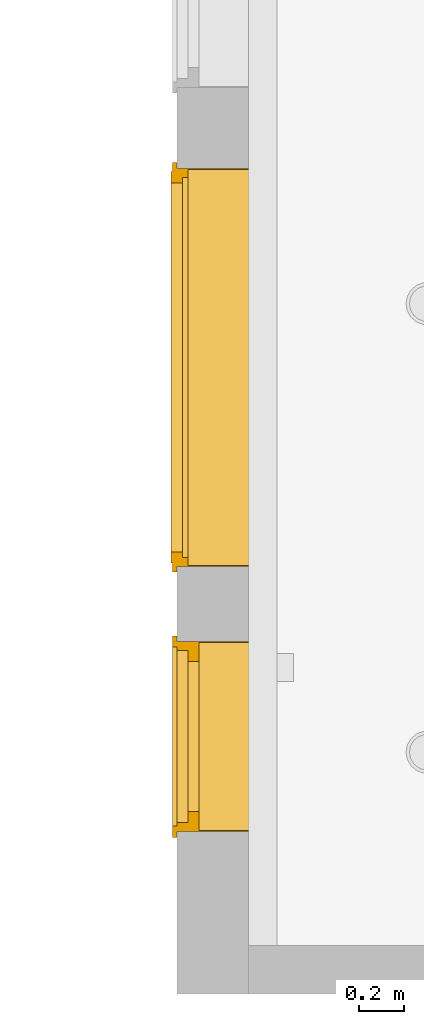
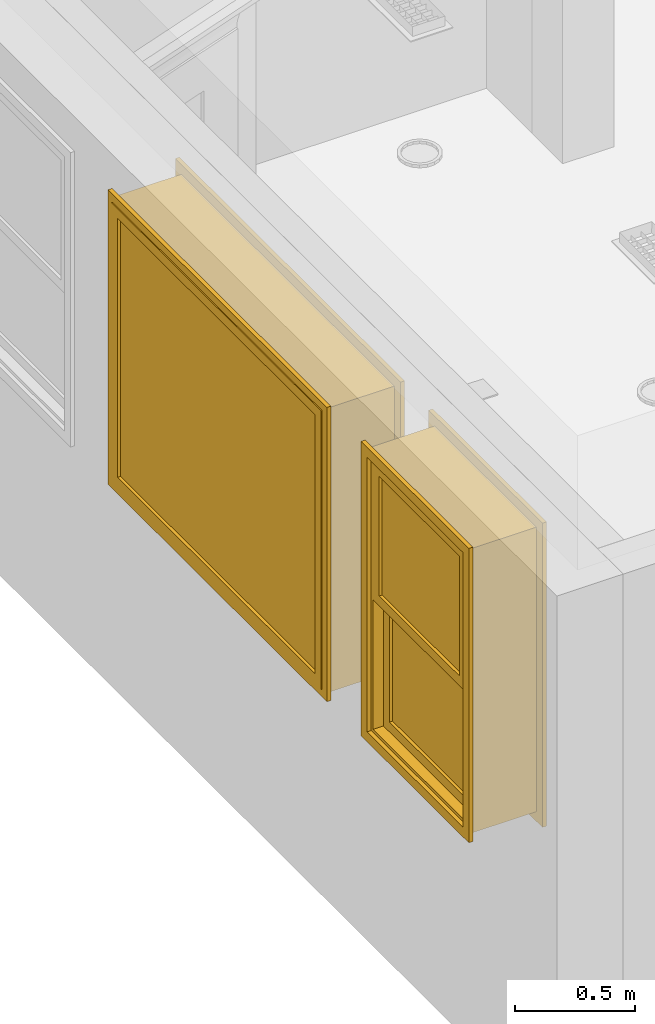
# One storey, part 10 of 24: 2 windows.
"""IFC2X3 building model written with IfcOpenShell, lengths in inches."""

from ifc_helpers import new_model, entity, si_unit, converted_unit, derived_unit, money_unit, direction, frame, origin_with_axes, place, context, subcontext, project, spatial, open_shell, faceted_brep, surface_model, type_object, element, save


model = new_model("IFC2X3")

# Units and contexts
model_context = context("Model", 3, precision=0.000393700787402, world=origin_with_axes(), true_north=direction((0.0, 1.0)))
body_context = subcontext(model_context, "Body", "Model", "MODEL_VIEW")
ifc_project = project(units=[converted_unit("LENGTHUNIT", "INCH", entity("IfcPositiveLengthMeasure", 0.0254), si_unit("LENGTHUNIT", "METRE"), dimensions=[1, 0, 0, 0, 0, 0, 0]), converted_unit("AREAUNIT", "SQUARE_FOOT", entity("IfcPositiveLengthMeasure", 0.09290304), si_unit("AREAUNIT", "SQUARE_METRE"), dimensions=[2, 0, 0, 0, 0, 0, 0]), si_unit("PLANEANGLEUNIT", "RADIAN"), si_unit("SOLIDANGLEUNIT", "STERADIAN"), money_unit("USD"), converted_unit("TIMEUNIT", "Year", entity("IfcTimeMeasure", 31556926.0), si_unit("TIMEUNIT", "SECOND"), dimensions=[0, 0, 1, 0, 0, 0, 0]), si_unit("MASSUNIT", "GRAM", prefix="KILO"), si_unit("THERMODYNAMICTEMPERATUREUNIT", "DEGREE_CELSIUS"), si_unit("LUMINOUSINTENSITYUNIT", "LUMEN"), si_unit("ENERGYUNIT", "JOULE", prefix="MEGA"), derived_unit("THERMALCONDUCTANCEUNIT", [(si_unit("POWERUNIT", "WATT"), 1), (si_unit("LENGTHUNIT", "METRE"), -1), (si_unit("THERMODYNAMICTEMPERATUREUNIT", "KELVIN"), -1)]), derived_unit("SPECIFICHEATCAPACITYUNIT", [(si_unit("ENERGYUNIT", "JOULE"), 1), (si_unit("MASSUNIT", "GRAM", prefix="KILO"), -1), (si_unit("THERMODYNAMICTEMPERATUREUNIT", "KELVIN"), -1)]), derived_unit("MASSDENSITYUNIT", [(si_unit("MASSUNIT", "GRAM", prefix="KILO"), 1), (si_unit("VOLUMEUNIT", "CUBIC_METRE"), -1)])], contexts=[model_context])

# Site, building, storey
site_placement = place(None, origin_with_axes())
site = spatial("IfcSite", under=ifc_project, at=site_placement, Name="Site", CompositionType="ELEMENT")
building_placement = place(site_placement, origin_with_axes())
building = spatial("IfcBuilding", under=site, at=building_placement, Name="Building", CompositionType="ELEMENT")
storey_placement = place(building_placement, origin_with_axes())
storey = spatial("IfcBuildingStorey", under=building, at=storey_placement, Name="First Floor", CompositionType="ELEMENT", Elevation=0.0)

# Windows
window_style_1 = type_object("IfcWindowStyle", Name="Double-Hung Window 25", ConstructionType="NOTDEFINED", OperationType="DOUBLE_PANEL_HORIZONTAL", ParameterTakesPrecedence=False, Sizeable=False)
window_1_placement = place(storey_placement, frame((290.431776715, 200.696750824, 36.0236220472), z_axis=(0.0, 0.0, 1.0), x_axis=(-9.94012117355e-06, -0.999999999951, 0.0)))
element("IfcWindow", 1, at=window_1_placement, inside=storey, type_object=window_style_1, Name="W-02", OverallHeight=57.0866, OverallWidth=33.4646, context=body_context, shape_type="SurfaceModel", body=[
    faceted_brep([(0.0, -8.66141732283, 0.0), (0.0, 0.0, 0.0), (33.4645669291, 0.0, 0.0), (33.4645669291, -8.66141732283, 0.0), (0.0, -8.66141732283, 57.0866141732), (0.0, 0.0, 57.0866141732), (33.4645669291, 0.0, 57.0866141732), (0.196850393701, 0.0, 0.196850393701), (33.2677165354, 0.0, 0.196850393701), (33.2677165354, 0.0, 56.8897637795), (0.196850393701, 0.0, 56.8897637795), (33.4645669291, -8.66141732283, 57.0866141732), (0.196850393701, -8.66141732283, 0.196850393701), (0.196850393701, -8.66141732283, 56.8897637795), (33.2677165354, -8.66141732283, 56.8897637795), (33.2677165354, -8.66141732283, 0.196850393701)], [[[0, 1, 2, 3]], [[4, 5, 1, 0]], [[1, 5, 6, 2], [7, 8, 9, 10]], [[3, 2, 6, 11]], [[0, 3, 11, 4], [12, 13, 14, 15]], [[11, 6, 5, 4]], [[15, 8, 7, 12]], [[14, 9, 8, 15]], [[13, 10, 9, 14]], [[12, 7, 10, 13]]]),
    faceted_brep([(-1.96850393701, 0.787401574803, -1.96850393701), (0.0, 0.787401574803, 0.0), (0.0, 0.0, 0.0), (-1.96850393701, 0.0, -1.96850393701), (-1.96850393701, 0.787401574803, 59.0551181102), (0.0, 0.787401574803, 57.0866141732), (0.0, 0.0, 57.0866141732), (-1.96850393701, 0.0, 59.0551181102)], [[[0, 1, 2, 3]], [[0, 4, 5, 1]], [[1, 5, 6, 2]], [[3, 2, 6, 7]], [[4, 0, 3, 7]], [[5, 4, 7, 6]]]),
    faceted_brep([(35.4330708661, 0.787401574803, 59.0551181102), (33.4645669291, 0.787401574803, 57.0866141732), (33.4645669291, 0.0, 57.0866141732), (35.4330708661, 0.0, 59.0551181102), (35.4330708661, 0.787401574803, -1.96850393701), (33.4645669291, 0.787401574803, 0.0), (33.4645669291, 0.0, 0.0), (35.4330708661, 0.0, -1.96850393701)], [[[0, 1, 2, 3]], [[0, 4, 5, 1]], [[1, 5, 6, 2]], [[3, 2, 6, 7]], [[4, 0, 3, 7]], [[5, 4, 7, 6]]]),
    faceted_brep([(35.4330708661, 0.787401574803, -1.96850393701), (33.4645669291, 0.787401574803, 0.0), (33.4645669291, 0.0, 0.0), (35.4330708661, 0.0, -1.96850393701), (-1.96850393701, 0.787401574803, -1.96850393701), (0.0, 0.787401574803, 0.0), (0.0, 0.0, 0.0), (-1.96850393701, 0.0, -1.96850393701)], [[[0, 1, 2, 3]], [[0, 4, 5, 1]], [[1, 5, 6, 2]], [[3, 2, 6, 7]], [[4, 0, 3, 7]], [[5, 4, 7, 6]]]),
    faceted_brep([(-1.96850393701, 0.787401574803, 59.0551181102), (0.0, 0.787401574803, 57.0866141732), (0.0, 0.0, 57.0866141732), (-1.96850393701, 0.0, 59.0551181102), (35.4330708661, 0.787401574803, 59.0551181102), (33.4645669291, 0.787401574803, 57.0866141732), (33.4645669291, 0.0, 57.0866141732), (35.4330708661, 0.0, 59.0551181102)], [[[0, 1, 2, 3]], [[0, 4, 5, 1]], [[1, 5, 6, 2]], [[3, 2, 6, 7]], [[4, 0, 3, 7]], [[5, 4, 7, 6]]]),
    faceted_brep([(-0.984251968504, -13.3858267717, -0.984251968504), (-0.984251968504, -12.5984251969, -0.984251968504), (0.984251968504, -12.5984251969, 0.984251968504), (0.984251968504, -13.3858267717, 0.984251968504), (-0.984251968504, -13.3858267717, 58.0708661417), (-0.984251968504, -12.5984251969, 58.0708661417), (0.984251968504, -12.5984251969, 56.1023622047), (0.984251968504, -13.3858267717, 56.1023622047)], [[[0, 1, 2, 3]], [[4, 5, 1, 0]], [[1, 5, 6, 2]], [[3, 2, 6, 7]], [[0, 3, 7, 4]], [[7, 6, 5, 4]]]),
    faceted_brep([(34.4488188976, -13.3858267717, 58.0708661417), (34.4488188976, -12.5984251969, 58.0708661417), (32.4803149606, -12.5984251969, 56.1023622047), (32.4803149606, -13.3858267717, 56.1023622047), (34.4488188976, -13.3858267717, -0.984251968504), (34.4488188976, -12.5984251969, -0.984251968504), (32.4803149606, -12.5984251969, 0.984251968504), (32.4803149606, -13.3858267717, 0.984251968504)], [[[0, 1, 2, 3]], [[4, 5, 1, 0]], [[1, 5, 6, 2]], [[3, 2, 6, 7]], [[0, 3, 7, 4]], [[7, 6, 5, 4]]]),
    faceted_brep([(34.4488188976, -13.3858267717, -0.984251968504), (34.4488188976, -12.5984251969, -0.984251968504), (32.4803149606, -12.5984251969, 0.984251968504), (32.4803149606, -13.3858267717, 0.984251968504), (-0.984251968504, -13.3858267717, -0.984251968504), (-0.984251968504, -12.5984251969, -0.984251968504), (0.984251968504, -12.5984251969, 0.984251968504), (0.984251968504, -13.3858267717, 0.984251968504)], [[[0, 1, 2, 3]], [[4, 5, 1, 0]], [[1, 5, 6, 2]], [[3, 2, 6, 7]], [[0, 3, 7, 4]], [[7, 6, 5, 4]]]),
    faceted_brep([(-0.984251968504, -13.3858267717, 58.0708661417), (-0.984251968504, -12.5984251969, 58.0708661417), (0.984251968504, -12.5984251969, 56.1023622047), (0.984251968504, -13.3858267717, 56.1023622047), (34.4488188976, -13.3858267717, 58.0708661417), (34.4488188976, -12.5984251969, 58.0708661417), (32.4803149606, -12.5984251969, 56.1023622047), (32.4803149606, -13.3858267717, 56.1023622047)], [[[0, 1, 2, 3]], [[4, 5, 1, 0]], [[1, 5, 6, 2]], [[3, 2, 6, 7]], [[0, 3, 7, 4]], [[7, 6, 5, 4]]]),
    faceted_brep([(1.57480314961, -12.5984251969, 55.5118110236), (1.57480314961, -8.66141732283, 55.5118110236), (0.0, -8.66141732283, 55.5118110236), (0.0, -12.5984251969, 55.5118110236), (1.57480314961, -12.5984251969, 1.57480314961), (1.57480314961, -8.66141732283, 1.57480314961), (0.0, -8.66141732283, 1.57480314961), (0.0, -12.5984251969, 1.57480314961)], [[[0, 1, 2, 3]], [[4, 5, 1, 0]], [[1, 5, 6, 2]], [[3, 2, 6, 7]], [[0, 3, 7, 4]], [[7, 6, 5, 4]]]),
    faceted_brep([(31.8897637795, -12.5984251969, 1.57480314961), (31.8897637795, -8.66141732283, 1.57480314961), (33.4645669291, -8.66141732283, 1.57480314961), (33.4645669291, -12.5984251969, 1.57480314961), (31.8897637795, -12.5984251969, 55.5118110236), (31.8897637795, -8.66141732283, 55.5118110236), (33.4645669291, -8.66141732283, 55.5118110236), (33.4645669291, -12.5984251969, 55.5118110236)], [[[0, 1, 2, 3]], [[4, 5, 1, 0]], [[1, 5, 6, 2]], [[3, 2, 6, 7]], [[0, 3, 7, 4]], [[7, 6, 5, 4]]]),
    faceted_brep([(1.57480314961, -12.5984251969, 1.57480314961), (1.57480314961, -8.66141732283, 1.57480314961), (0.0, -8.66141732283, 1.57480314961), (0.0, -12.5984251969, 1.57480314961), (31.8897637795, -12.5984251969, 1.57480314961), (31.8897637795, -8.66141732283, 1.57480314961), (33.4645669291, -8.66141732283, 1.57480314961), (33.4645669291, -8.66141732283, 0.0), (0.0, -8.66141732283, 0.0), (0.0, -12.5984251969, 0.0), (33.4645669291, -12.5984251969, 0.0), (33.4645669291, -12.5984251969, 1.57480314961)], [[[0, 1, 2, 3]], [[4, 5, 1, 0]], [[1, 5, 6, 7, 8, 2]], [[3, 2, 8, 9]], [[0, 3, 9, 10, 11, 4]], [[11, 6, 5, 4]], [[10, 7, 6, 11]], [[9, 8, 7, 10]]]),
    faceted_brep([(31.8897637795, -12.5984251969, 55.5118110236), (31.8897637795, -8.66141732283, 55.5118110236), (33.4645669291, -8.66141732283, 55.5118110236), (33.4645669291, -12.5984251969, 55.5118110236), (1.57480314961, -12.5984251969, 55.5118110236), (1.57480314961, -8.66141732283, 55.5118110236), (0.0, -8.66141732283, 55.5118110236), (0.0, -8.66141732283, 57.0866141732), (33.4645669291, -8.66141732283, 57.0866141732), (33.4645669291, -12.5984251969, 57.0866141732), (0.0, -12.5984251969, 57.0866141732), (0.0, -12.5984251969, 55.5118110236)], [[[0, 1, 2, 3]], [[4, 5, 1, 0]], [[1, 5, 6, 7, 8, 2]], [[3, 2, 8, 9]], [[0, 3, 9, 10, 11, 4]], [[11, 6, 5, 4]], [[10, 7, 6, 11]], [[9, 8, 7, 10]]]),
    faceted_brep([(3.54330708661, -10.6299212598, 27.5590551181), (3.54330708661, -8.66141732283, 27.5590551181), (1.57480314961, -8.66141732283, 27.5590551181), (1.57480314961, -10.6299212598, 27.5590551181), (3.54330708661, -10.6299212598, 3.54330708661), (3.54330708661, -8.66141732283, 3.54330708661), (1.57480314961, -8.66141732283, 3.54330708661), (1.57480314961, -10.6299212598, 3.54330708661)], [[[0, 1, 2, 3]], [[4, 5, 1, 0]], [[1, 5, 6, 2]], [[3, 2, 6, 7]], [[0, 3, 7, 4]], [[7, 6, 5, 4]]]),
    faceted_brep([(29.9212598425, -10.6299212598, 3.54330708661), (29.9212598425, -8.66141732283, 3.54330708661), (31.8897637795, -8.66141732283, 3.54330708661), (31.8897637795, -10.6299212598, 3.54330708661), (29.9212598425, -10.6299212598, 27.5590551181), (29.9212598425, -8.66141732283, 27.5590551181), (31.8897637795, -8.66141732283, 27.5590551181), (31.8897637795, -10.6299212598, 27.5590551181)], [[[0, 1, 2, 3]], [[4, 5, 1, 0]], [[1, 5, 6, 2]], [[3, 2, 6, 7]], [[0, 3, 7, 4]], [[7, 6, 5, 4]]]),
    faceted_brep([(31.8897637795, -10.6299212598, 1.57480314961), (31.8897637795, -8.66141732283, 1.57480314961), (31.8897637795, -8.66141732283, 3.54330708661), (31.8897637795, -10.6299212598, 3.54330708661), (1.57480314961, -10.6299212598, 1.57480314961), (1.57480314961, -8.66141732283, 1.57480314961), (1.57480314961, -8.66141732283, 3.54330708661), (3.54330708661, -8.66141732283, 3.54330708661), (29.9212598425, -8.66141732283, 3.54330708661), (29.9212598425, -10.6299212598, 3.54330708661), (3.54330708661, -10.6299212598, 3.54330708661), (1.57480314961, -10.6299212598, 3.54330708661)], [[[0, 1, 2, 3]], [[4, 5, 1, 0]], [[1, 5, 6, 7, 8, 2]], [[3, 2, 8, 9]], [[0, 3, 9, 10, 11, 4]], [[11, 6, 5, 4]], [[10, 7, 6, 11]], [[9, 8, 7, 10]]]),
    faceted_brep([(1.57480314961, -10.6299212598, 29.5275590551), (1.57480314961, -8.66141732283, 29.5275590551), (1.57480314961, -8.66141732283, 27.5590551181), (1.57480314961, -10.6299212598, 27.5590551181), (31.8897637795, -10.6299212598, 29.5275590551), (31.8897637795, -8.66141732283, 29.5275590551), (31.8897637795, -8.66141732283, 27.5590551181), (29.9212598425, -8.66141732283, 27.5590551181), (3.54330708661, -8.66141732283, 27.5590551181), (3.54330708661, -10.6299212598, 27.5590551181), (29.9212598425, -10.6299212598, 27.5590551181), (31.8897637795, -10.6299212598, 27.5590551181)], [[[0, 1, 2, 3]], [[4, 5, 1, 0]], [[1, 5, 6, 7, 8, 2]], [[3, 2, 8, 9]], [[0, 3, 9, 10, 11, 4]], [[11, 6, 5, 4]], [[10, 7, 6, 11]], [[9, 8, 7, 10]]]),
    surface_model("IfcShellBasedSurfaceModel", [(3.54330708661, -10.0393700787, 3.54330708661), (29.9212598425, -10.0393700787, 3.54330708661), (29.9212598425, -10.0393700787, 27.5590551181), (3.54330708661, -10.0393700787, 27.5590551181)], [open_shell([[[0, 1, 2, 3]]])]),
    surface_model("IfcShellBasedSurfaceModel", [(3.54330708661, -9.25196850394, 3.54330708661), (3.54330708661, -9.25196850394, 27.5590551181), (29.9212598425, -9.25196850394, 27.5590551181), (29.9212598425, -9.25196850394, 3.54330708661)], [open_shell([[[0, 1, 2, 3]]])]),
    faceted_brep([(3.54330708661, -12.5984251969, 53.5433070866), (3.54330708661, -10.6299212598, 53.5433070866), (1.57480314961, -10.6299212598, 53.5433070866), (1.57480314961, -12.5984251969, 53.5433070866), (3.54330708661, -12.5984251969, 29.5275590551), (3.54330708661, -10.6299212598, 29.5275590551), (1.57480314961, -10.6299212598, 29.5275590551), (1.57480314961, -12.5984251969, 29.5275590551)], [[[0, 1, 2, 3]], [[4, 5, 1, 0]], [[1, 5, 6, 2]], [[3, 2, 6, 7]], [[0, 3, 7, 4]], [[7, 6, 5, 4]]]),
    faceted_brep([(29.9212598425, -12.5984251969, 29.5275590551), (29.9212598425, -10.6299212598, 29.5275590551), (31.8897637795, -10.6299212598, 29.5275590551), (31.8897637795, -12.5984251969, 29.5275590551), (29.9212598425, -12.5984251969, 53.5433070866), (29.9212598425, -10.6299212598, 53.5433070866), (31.8897637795, -10.6299212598, 53.5433070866), (31.8897637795, -12.5984251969, 53.5433070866)], [[[0, 1, 2, 3]], [[4, 5, 1, 0]], [[1, 5, 6, 2]], [[3, 2, 6, 7]], [[0, 3, 7, 4]], [[7, 6, 5, 4]]]),
    faceted_brep([(31.8897637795, -12.5984251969, 27.5590551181), (31.8897637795, -10.6299212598, 27.5590551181), (31.8897637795, -10.6299212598, 29.5275590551), (31.8897637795, -12.5984251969, 29.5275590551), (1.57480314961, -12.5984251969, 27.5590551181), (1.57480314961, -10.6299212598, 27.5590551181), (1.57480314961, -10.6299212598, 29.5275590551), (3.54330708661, -10.6299212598, 29.5275590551), (29.9212598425, -10.6299212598, 29.5275590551), (29.9212598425, -12.5984251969, 29.5275590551), (3.54330708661, -12.5984251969, 29.5275590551), (1.57480314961, -12.5984251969, 29.5275590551)], [[[0, 1, 2, 3]], [[4, 5, 1, 0]], [[1, 5, 6, 7, 8, 2]], [[3, 2, 8, 9]], [[0, 3, 9, 10, 11, 4]], [[11, 6, 5, 4]], [[10, 7, 6, 11]], [[9, 8, 7, 10]]]),
    faceted_brep([(1.57480314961, -12.5984251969, 55.5118110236), (1.57480314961, -10.6299212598, 55.5118110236), (1.57480314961, -10.6299212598, 53.5433070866), (1.57480314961, -12.5984251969, 53.5433070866), (31.8897637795, -12.5984251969, 55.5118110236), (31.8897637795, -10.6299212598, 55.5118110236), (31.8897637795, -10.6299212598, 53.5433070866), (29.9212598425, -10.6299212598, 53.5433070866), (3.54330708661, -10.6299212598, 53.5433070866), (3.54330708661, -12.5984251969, 53.5433070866), (29.9212598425, -12.5984251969, 53.5433070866), (31.8897637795, -12.5984251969, 53.5433070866)], [[[0, 1, 2, 3]], [[4, 5, 1, 0]], [[1, 5, 6, 7, 8, 2]], [[3, 2, 8, 9]], [[0, 3, 9, 10, 11, 4]], [[11, 6, 5, 4]], [[10, 7, 6, 11]], [[9, 8, 7, 10]]]),
    surface_model("IfcShellBasedSurfaceModel", [(3.54330708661, -12.0078740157, 29.5275590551), (29.9212598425, -12.0078740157, 29.5275590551), (29.9212598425, -12.0078740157, 53.5433070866), (3.54330708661, -12.0078740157, 53.5433070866)], [open_shell([[[0, 1, 2, 3]]])]),
    surface_model("IfcShellBasedSurfaceModel", [(3.54330708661, -11.2204724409, 29.5275590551), (3.54330708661, -11.2204724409, 53.5433070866), (29.9212598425, -11.2204724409, 53.5433070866), (29.9212598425, -11.2204724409, 29.5275590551)], [open_shell([[[0, 1, 2, 3]]])]),
])
window_style_2 = type_object("IfcWindowStyle", Name="Window 25", ConstructionType="NOTDEFINED", OperationType="SINGLE_PANEL", ParameterTakesPrecedence=False, Sizeable=False)
window_2_placement = place(storey_placement, frame((290.431907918, 213.896101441, 36.0236220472), z_axis=(0.0, 0.0, 1.0), x_axis=(9.94012117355e-06, 0.999999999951, 0.0)))
element("IfcWindow", 2, at=window_2_placement, inside=storey, type_object=window_style_2, Name="W-03", OverallHeight=57.0866, OverallWidth=70.0787, context=body_context, shape_type="SurfaceModel", body=[
    faceted_brep([(70.0787401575, 10.6299212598, 0.0), (70.0787401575, 0.0, 0.0), (0.0, 0.0, 0.0), (0.0, 10.6299212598, 0.0), (70.0787401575, 10.6299212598, 57.0866141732), (70.0787401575, 0.0, 57.0866141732), (0.0, 0.0, 57.0866141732), (69.8818897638, 0.0, 0.196850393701), (0.196850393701, 0.0, 0.196850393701), (0.196850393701, 0.0, 56.8897637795), (69.8818897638, 0.0, 56.8897637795), (0.0, 10.6299212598, 57.0866141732), (69.8818897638, 10.6299212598, 0.196850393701), (69.8818897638, 10.6299212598, 56.8897637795), (0.196850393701, 10.6299212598, 56.8897637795), (0.196850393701, 10.6299212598, 0.196850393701)], [[[0, 1, 2, 3]], [[4, 5, 1, 0]], [[1, 5, 6, 2], [7, 8, 9, 10]], [[3, 2, 6, 11]], [[0, 3, 11, 4], [12, 13, 14, 15]], [[11, 6, 5, 4]], [[15, 8, 7, 12]], [[14, 9, 8, 15]], [[13, 10, 9, 14]], [[12, 7, 10, 13]]]),
    faceted_brep([(72.0472440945, -0.787401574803, -1.96850393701), (70.0787401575, -0.787401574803, 0.0), (70.0787401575, 0.0, 0.0), (72.0472440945, 0.0, -1.96850393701), (72.0472440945, -0.787401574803, 59.0551181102), (70.0787401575, -0.787401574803, 57.0866141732), (70.0787401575, 0.0, 57.0866141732), (72.0472440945, 0.0, 59.0551181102)], [[[0, 1, 2, 3]], [[0, 4, 5, 1]], [[1, 5, 6, 2]], [[3, 2, 6, 7]], [[4, 0, 3, 7]], [[5, 4, 7, 6]]]),
    faceted_brep([(-1.96850393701, -0.787401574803, 59.0551181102), (0.0, -0.787401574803, 57.0866141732), (0.0, 0.0, 57.0866141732), (-1.96850393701, 0.0, 59.0551181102), (-1.96850393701, -0.787401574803, -1.96850393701), (0.0, -0.787401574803, 0.0), (0.0, 0.0, 0.0), (-1.96850393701, 0.0, -1.96850393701)], [[[0, 1, 2, 3]], [[0, 4, 5, 1]], [[1, 5, 6, 2]], [[3, 2, 6, 7]], [[4, 0, 3, 7]], [[5, 4, 7, 6]]]),
    faceted_brep([(-1.96850393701, -0.787401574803, -1.96850393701), (0.0, -0.787401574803, 0.0), (0.0, 0.0, 0.0), (-1.96850393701, 0.0, -1.96850393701), (72.0472440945, -0.787401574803, -1.96850393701), (70.0787401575, -0.787401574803, 0.0), (70.0787401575, 0.0, 0.0), (72.0472440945, 0.0, -1.96850393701)], [[[0, 1, 2, 3]], [[0, 4, 5, 1]], [[1, 5, 6, 2]], [[3, 2, 6, 7]], [[4, 0, 3, 7]], [[5, 4, 7, 6]]]),
    faceted_brep([(72.0472440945, -0.787401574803, 59.0551181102), (70.0787401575, -0.787401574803, 57.0866141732), (70.0787401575, 0.0, 57.0866141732), (72.0472440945, 0.0, 59.0551181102), (-1.96850393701, -0.787401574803, 59.0551181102), (0.0, -0.787401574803, 57.0866141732), (0.0, 0.0, 57.0866141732), (-1.96850393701, 0.0, 59.0551181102)], [[[0, 1, 2, 3]], [[0, 4, 5, 1]], [[1, 5, 6, 2]], [[3, 2, 6, 7]], [[4, 0, 3, 7]], [[5, 4, 7, 6]]]),
    faceted_brep([(71.062992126, 13.3858267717, -0.984251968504), (71.062992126, 12.5984251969, -0.984251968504), (69.094488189, 12.5984251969, 0.984251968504), (69.094488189, 13.3858267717, 0.984251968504), (71.062992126, 13.3858267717, 58.0708661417), (71.062992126, 12.5984251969, 58.0708661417), (69.094488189, 12.5984251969, 56.1023622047), (69.094488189, 13.3858267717, 56.1023622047)], [[[0, 1, 2, 3]], [[4, 5, 1, 0]], [[1, 5, 6, 2]], [[3, 2, 6, 7]], [[0, 3, 7, 4]], [[7, 6, 5, 4]]]),
    faceted_brep([(-0.984251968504, 13.3858267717, 58.0708661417), (-0.984251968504, 12.5984251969, 58.0708661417), (0.984251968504, 12.5984251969, 56.1023622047), (0.984251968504, 13.3858267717, 56.1023622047), (-0.984251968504, 13.3858267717, -0.984251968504), (-0.984251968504, 12.5984251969, -0.984251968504), (0.984251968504, 12.5984251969, 0.984251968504), (0.984251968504, 13.3858267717, 0.984251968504)], [[[0, 1, 2, 3]], [[4, 5, 1, 0]], [[1, 5, 6, 2]], [[3, 2, 6, 7]], [[0, 3, 7, 4]], [[7, 6, 5, 4]]]),
    faceted_brep([(-0.984251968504, 13.3858267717, -0.984251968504), (-0.984251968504, 12.5984251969, -0.984251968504), (0.984251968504, 12.5984251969, 0.984251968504), (0.984251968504, 13.3858267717, 0.984251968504), (71.062992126, 13.3858267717, -0.984251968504), (71.062992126, 12.5984251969, -0.984251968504), (69.094488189, 12.5984251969, 0.984251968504), (69.094488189, 13.3858267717, 0.984251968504)], [[[0, 1, 2, 3]], [[4, 5, 1, 0]], [[1, 5, 6, 2]], [[3, 2, 6, 7]], [[0, 3, 7, 4]], [[7, 6, 5, 4]]]),
    faceted_brep([(71.062992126, 13.3858267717, 58.0708661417), (71.062992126, 12.5984251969, 58.0708661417), (69.094488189, 12.5984251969, 56.1023622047), (69.094488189, 13.3858267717, 56.1023622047), (-0.984251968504, 13.3858267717, 58.0708661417), (-0.984251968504, 12.5984251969, 58.0708661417), (0.984251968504, 12.5984251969, 56.1023622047), (0.984251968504, 13.3858267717, 56.1023622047)], [[[0, 1, 2, 3]], [[4, 5, 1, 0]], [[1, 5, 6, 2]], [[3, 2, 6, 7]], [[0, 3, 7, 4]], [[7, 6, 5, 4]]]),
    faceted_brep([(69.4881889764, 12.5984251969, 55.5118110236), (69.4881889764, 11.6141732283, 55.5118110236), (68.5039370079, 11.6141732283, 55.5118110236), (68.5039370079, 10.6299212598, 55.5118110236), (70.0787401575, 10.6299212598, 55.5118110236), (70.0787401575, 12.5984251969, 55.5118110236), (69.4881889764, 12.5984251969, 1.57480314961), (69.4881889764, 11.6141732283, 1.57480314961), (68.5039370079, 11.6141732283, 1.57480314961), (68.5039370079, 10.6299212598, 1.57480314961), (70.0787401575, 10.6299212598, 1.57480314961), (70.0787401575, 12.5984251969, 1.57480314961)], [[[0, 1, 2, 3, 4, 5]], [[1, 0, 6, 7]], [[8, 2, 1, 7]], [[2, 8, 9, 3]], [[4, 3, 9, 10]], [[5, 4, 10, 11]], [[6, 0, 5, 11]], [[7, 6, 11, 10, 9, 8]]]),
    faceted_brep([(1.57480314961, 11.6141732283, 55.5118110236), (0.590551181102, 11.6141732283, 55.5118110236), (0.590551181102, 12.5984251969, 55.5118110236), (0.0, 12.5984251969, 55.5118110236), (0.0, 10.6299212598, 55.5118110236), (1.57480314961, 10.6299212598, 55.5118110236), (1.57480314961, 11.6141732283, 1.57480314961), (0.590551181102, 11.6141732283, 1.57480314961), (0.590551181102, 12.5984251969, 1.57480314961), (0.0, 12.5984251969, 1.57480314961), (0.0, 10.6299212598, 1.57480314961), (1.57480314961, 10.6299212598, 1.57480314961)], [[[0, 1, 2, 3, 4, 5]], [[1, 0, 6, 7]], [[8, 2, 1, 7]], [[2, 8, 9, 3]], [[9, 10, 4, 3]], [[10, 11, 5, 4]], [[6, 0, 5, 11]], [[7, 6, 11, 10, 9, 8]]]),
    faceted_brep([(1.57480314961, 11.6141732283, 1.57480314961), (0.590551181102, 11.6141732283, 1.57480314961), (0.590551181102, 12.5984251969, 1.57480314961), (0.0, 12.5984251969, 1.57480314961), (0.0, 10.6299212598, 1.57480314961), (1.57480314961, 10.6299212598, 1.57480314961), (68.5039370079, 11.6141732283, 1.57480314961), (69.4881889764, 11.6141732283, 1.57480314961), (69.4881889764, 11.6141732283, 0.590551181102), (0.590551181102, 11.6141732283, 0.590551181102), (0.590551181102, 12.5984251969, 0.590551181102), (69.4881889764, 12.5984251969, 0.590551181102), (69.4881889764, 12.5984251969, 1.57480314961), (70.0787401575, 12.5984251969, 1.57480314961), (70.0787401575, 12.5984251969, 0.0), (0.0, 12.5984251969, 0.0), (0.0, 10.6299212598, 0.0), (70.0787401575, 10.6299212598, 1.57480314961), (68.5039370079, 10.6299212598, 1.57480314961), (70.0787401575, 10.6299212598, 0.0)], [[[0, 1, 2, 3, 4, 5]], [[1, 0, 6, 7, 8, 9]], [[10, 2, 1, 9]], [[11, 12, 13, 14, 15, 3, 2, 10]], [[15, 16, 4, 3]], [[17, 18, 5, 4, 16, 19]], [[6, 0, 5, 18]], [[7, 6, 18, 17, 13, 12]], [[7, 12, 11, 8]], [[11, 10, 9, 8]], [[13, 17, 19, 14]], [[14, 19, 16, 15]]]),
    faceted_brep([(69.4881889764, 12.5984251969, 55.5118110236), (69.4881889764, 12.5984251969, 56.4960629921), (0.590551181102, 12.5984251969, 56.4960629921), (0.590551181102, 12.5984251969, 55.5118110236), (0.0, 12.5984251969, 55.5118110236), (0.0, 12.5984251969, 57.0866141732), (70.0787401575, 12.5984251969, 57.0866141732), (70.0787401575, 12.5984251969, 55.5118110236), (69.4881889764, 11.6141732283, 55.5118110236), (69.4881889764, 11.6141732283, 56.4960629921), (0.590551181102, 11.6141732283, 56.4960629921), (0.590551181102, 11.6141732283, 55.5118110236), (1.57480314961, 11.6141732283, 55.5118110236), (1.57480314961, 10.6299212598, 55.5118110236), (0.0, 10.6299212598, 55.5118110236), (0.0, 10.6299212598, 57.0866141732), (70.0787401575, 10.6299212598, 57.0866141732), (70.0787401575, 10.6299212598, 55.5118110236), (68.5039370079, 10.6299212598, 55.5118110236), (68.5039370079, 11.6141732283, 55.5118110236)], [[[0, 1, 2, 3, 4, 5, 6, 7]], [[1, 0, 8, 9]], [[2, 1, 9, 10]], [[3, 2, 10, 11]], [[11, 12, 13, 14, 4, 3]], [[4, 14, 15, 5]], [[5, 15, 16, 6]], [[6, 16, 17, 7]], [[8, 0, 7, 17, 18, 19]], [[12, 11, 10, 9, 8, 19]], [[12, 19, 18, 13]], [[14, 13, 18, 17, 16, 15]]]),
    faceted_brep([(67.5196850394, 11.6141732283, 54.5275590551), (69.4881889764, 11.6141732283, 54.5275590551), (69.4881889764, 13.5826771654, 54.5275590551), (67.5196850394, 13.5826771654, 54.5275590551), (67.5196850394, 11.6141732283, 2.55905511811), (69.4881889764, 11.6141732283, 2.55905511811), (69.4881889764, 13.5826771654, 2.55905511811), (67.5196850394, 13.5826771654, 2.55905511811)], [[[0, 1, 2, 3]], [[0, 4, 5, 1]], [[1, 5, 6, 2]], [[3, 2, 6, 7]], [[4, 0, 3, 7]], [[5, 4, 7, 6]]]),
    faceted_brep([(2.55905511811, 11.6141732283, 2.55905511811), (0.590551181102, 11.6141732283, 2.55905511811), (0.590551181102, 13.5826771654, 2.55905511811), (2.55905511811, 13.5826771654, 2.55905511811), (2.55905511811, 11.6141732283, 54.5275590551), (0.590551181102, 11.6141732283, 54.5275590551), (0.590551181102, 13.5826771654, 54.5275590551), (2.55905511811, 13.5826771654, 54.5275590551)], [[[0, 1, 2, 3]], [[0, 4, 5, 1]], [[1, 5, 6, 2]], [[3, 2, 6, 7]], [[4, 0, 3, 7]], [[5, 4, 7, 6]]]),
    faceted_brep([(0.590551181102, 11.6141732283, 0.590551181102), (0.590551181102, 11.6141732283, 2.55905511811), (0.590551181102, 13.5826771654, 2.55905511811), (0.590551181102, 13.5826771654, 0.590551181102), (69.4881889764, 11.6141732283, 0.590551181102), (69.4881889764, 11.6141732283, 2.55905511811), (67.5196850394, 11.6141732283, 2.55905511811), (2.55905511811, 11.6141732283, 2.55905511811), (2.55905511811, 13.5826771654, 2.55905511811), (67.5196850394, 13.5826771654, 2.55905511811), (69.4881889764, 13.5826771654, 2.55905511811), (69.4881889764, 13.5826771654, 0.590551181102)], [[[0, 1, 2, 3]], [[0, 4, 5, 6, 7, 1]], [[1, 7, 8, 2]], [[3, 2, 8, 9, 10, 11]], [[4, 0, 3, 11]], [[5, 4, 11, 10]], [[6, 5, 10, 9]], [[7, 6, 9, 8]]]),
    faceted_brep([(69.4881889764, 11.6141732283, 56.4960629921), (69.4881889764, 11.6141732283, 54.5275590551), (69.4881889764, 13.5826771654, 54.5275590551), (69.4881889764, 13.5826771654, 56.4960629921), (0.590551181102, 11.6141732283, 56.4960629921), (0.590551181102, 11.6141732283, 54.5275590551), (2.55905511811, 11.6141732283, 54.5275590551), (67.5196850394, 11.6141732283, 54.5275590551), (67.5196850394, 13.5826771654, 54.5275590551), (2.55905511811, 13.5826771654, 54.5275590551), (0.590551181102, 13.5826771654, 54.5275590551), (0.590551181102, 13.5826771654, 56.4960629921)], [[[0, 1, 2, 3]], [[0, 4, 5, 6, 7, 1]], [[1, 7, 8, 2]], [[3, 2, 8, 9, 10, 11]], [[4, 0, 3, 11]], [[5, 4, 11, 10]], [[6, 5, 10, 9]], [[7, 6, 9, 8]]]),
    surface_model("IfcShellBasedSurfaceModel", [(67.5196850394, 12.2047244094, 2.55905511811), (67.5196850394, 12.2047244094, 54.5275590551), (2.55905511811, 12.2047244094, 54.5275590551), (2.55905511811, 12.2047244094, 2.55905511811)], [open_shell([[[0, 1, 2, 3]]])]),
    surface_model("IfcShellBasedSurfaceModel", [(67.5196850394, 12.9921259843, 2.55905511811), (2.55905511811, 12.9921259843, 2.55905511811), (2.55905511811, 12.9921259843, 54.5275590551), (67.5196850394, 12.9921259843, 54.5275590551)], [open_shell([[[0, 1, 2, 3]]])]),
])

save(model, "model.ifc")
